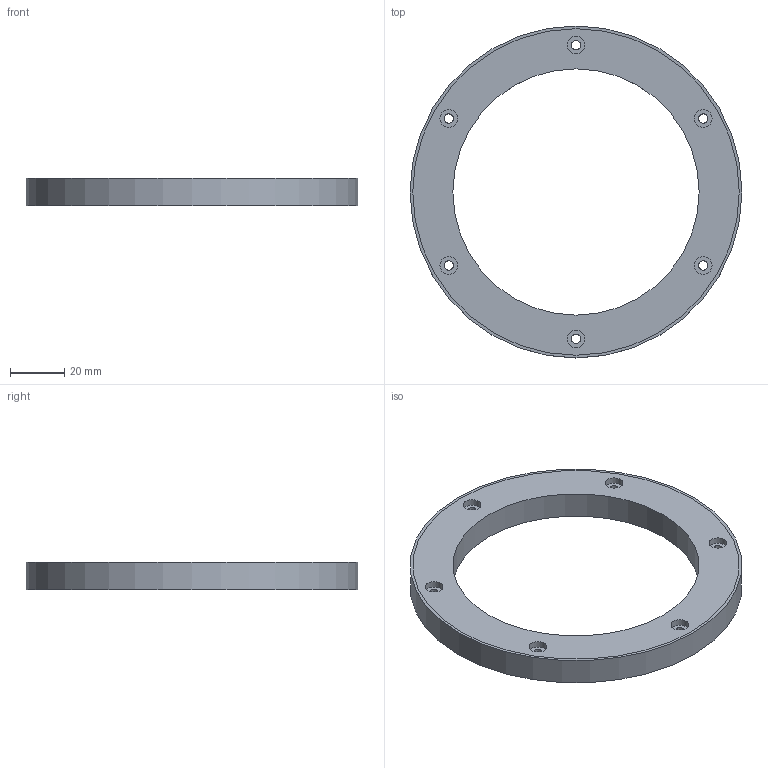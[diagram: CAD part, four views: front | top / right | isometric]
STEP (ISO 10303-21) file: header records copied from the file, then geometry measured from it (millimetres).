
FILE_DESCRIPTION(/* description */ ('STEP AP203','CAx-IF Rec.Pracs.---Representation and Presentation of Product Manufacturing Information (PMI)---4.0---2014-10-13'),/* implementation_level */ '2;1');
FILE_NAME(/* name */ 'C:\DESKTOP\홈페이지용 엔코더 3D 데이타 및 사진관련 자료\Bearingless type\Radial Type\RH122-90-32-31-1.28-HN-AL\RH122-90-32-31-1.28-HN-AL.stp',/* time_stamp */ '2023-06-05T22:22:57+08:00',/* author */ ('hnckhn'),/* organization */ (''),/* preprocessor_version */ 'ST-DEVELOPER v18.1',/* originating_system */ 'Autodesk Inventor 2021',/* authorisation */ '');
FILE_SCHEMA (('AP242_MANAGED_MODEL_BASED_3D_ENGINEERING_MIM_LF { 1 0 10303 442 1 1 4 }'));
Length unit declared in the file: millimetre
Products named in the file (3): RH122-90-32-31-1.28-HN-AL; AL_BASE; MAGNET
Assembly tree (2 placements, depth 2):
  RH122-90-32-31-1.28-HN-AL
    AL_BASE
    MAGNET
Bounding box: 122 x 122 x 10 mm (x, y, z)
Volume: 51680.7 mm3; surface area: 25402.4 mm2
Topology: 2 solids, 2 shells, 26 faces, 68 edges, 52 vertices
Faces by surface type: cylinder 16, plane 10
Full cylindrical faces by diameter (mm): 3.4 x6, 6.5 x6, 90.5 x1, 120 x2, 122 x1
Entity records: 1188 total; most frequent: DIRECTION 234, CARTESIAN_POINT 183, ORIENTED_EDGE 132, AXIS2_PLACEMENT_3D 109, EDGE_CURVE 66, CIRCLE 52, VERTEX_POINT 50, EDGE_LOOP 48
